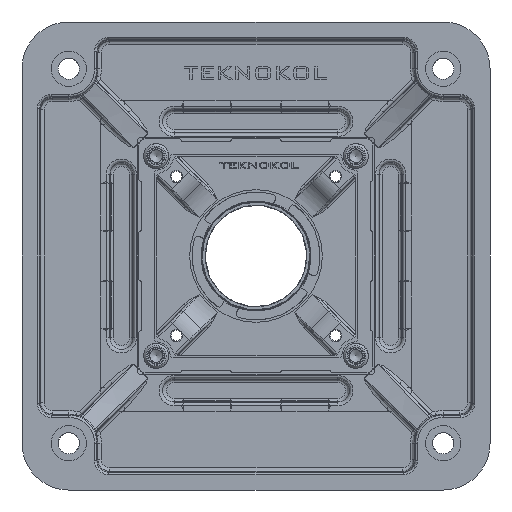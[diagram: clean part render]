
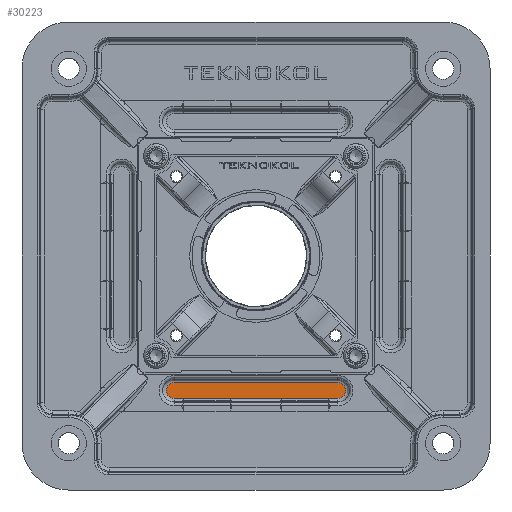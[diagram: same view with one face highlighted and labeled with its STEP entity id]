
A CAD part, front view. The second image highlights one B-rep face of the part: STEP entity #30223.
In plain terms, the highlighted planar face has unit normal (0, -1, 0).
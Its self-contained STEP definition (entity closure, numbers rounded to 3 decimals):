
#2695 = DIRECTION ( 'NONE',  ( 1., 0., 0. ) ) ;
#4291 = DIRECTION ( 'NONE',  ( 0., -1., 0. ) ) ;
#4938 = CARTESIAN_POINT ( 'NONE',  ( 35.053, -57.358, 213.75 ) ) ;
#5681 = DIRECTION ( 'NONE',  ( 0., 0., -1. ) ) ;
#8684 = AXIS2_PLACEMENT_3D ( 'NONE', #76283, #35646, #5681 ) ;
#8712 = VERTEX_POINT ( 'NONE', #55480 ) ;
#9222 = ORIENTED_EDGE ( 'NONE', *, *, #41913, .T. ) ;
#10529 = LINE ( 'NONE', #69332, #33065 ) ;
#11648 = DIRECTION ( 'NONE',  ( 0., 0., -1. ) ) ;
#17490 = FACE_OUTER_BOUND ( 'NONE', #39046, .T. ) ;
#18861 = AXIS2_PLACEMENT_3D ( 'NONE', #4938, #41192, #11648 ) ;
#19482 = CARTESIAN_POINT ( 'NONE',  ( -69.947, -57.358, 208.7 ) ) ;
#29574 = EDGE_CURVE ( 'NONE', #8712, #51820, #60476, .T. ) ;
#29643 = ORIENTED_EDGE ( 'NONE', *, *, #29574, .T. ) ;
#30223 = ADVANCED_FACE ( 'NONE', ( #17490 ), #41570, .T. ) ;
#31320 = LINE ( 'NONE', #37217, #52517 ) ;
#33065 = VECTOR ( 'NONE', #2695, 1000. ) ;
#35646 = DIRECTION ( 'NONE',  ( 0., -1., 0. ) ) ;
#36419 = VERTEX_POINT ( 'NONE', #19482 ) ;
#37217 = CARTESIAN_POINT ( 'NONE',  ( -69.947, -57.358, 218.8 ) ) ;
#39046 = EDGE_LOOP ( 'NONE', ( #29643, #9222, #52406, #46647 ) ) ;
#41192 = DIRECTION ( 'NONE',  ( 0., -1., 0. ) ) ;
#41570 = PLANE ( 'NONE',  #8684 ) ;
#41913 = EDGE_CURVE ( 'NONE', #51820, #68752, #31320, .T. ) ;
#45334 = CARTESIAN_POINT ( 'NONE',  ( -69.947, -57.358, 213.75 ) ) ;
#46647 = ORIENTED_EDGE ( 'NONE', *, *, #62306, .T. ) ;
#49706 = CARTESIAN_POINT ( 'NONE',  ( -69.947, -57.358, 218.8 ) ) ;
#51820 = VERTEX_POINT ( 'NONE', #71483 ) ;
#52406 = ORIENTED_EDGE ( 'NONE', *, *, #73569, .T. ) ;
#52517 = VECTOR ( 'NONE', #62845, 1000. ) ;
#55480 = CARTESIAN_POINT ( 'NONE',  ( 35.053, -57.358, 208.7 ) ) ;
#57541 = DIRECTION ( 'NONE',  ( 0., 0., -1. ) ) ;
#60476 = CIRCLE ( 'NONE', #18861, 5.05 ) ;
#62306 = EDGE_CURVE ( 'NONE', #36419, #8712, #10529, .T. ) ;
#62845 = DIRECTION ( 'NONE',  ( -1., 0., 0. ) ) ;
#68752 = VERTEX_POINT ( 'NONE', #49706 ) ;
#69332 = CARTESIAN_POINT ( 'NONE',  ( -69.947, -57.358, 208.7 ) ) ;
#71281 = AXIS2_PLACEMENT_3D ( 'NONE', #45334, #4291, #57541 ) ;
#71483 = CARTESIAN_POINT ( 'NONE',  ( 35.053, -57.358, 218.8 ) ) ;
#72577 = CIRCLE ( 'NONE', #71281, 5.05 ) ;
#73569 = EDGE_CURVE ( 'NONE', #68752, #36419, #72577, .T. ) ;
#76283 = CARTESIAN_POINT ( 'NONE',  ( -69.947, -57.358, 213.75 ) ) ;
